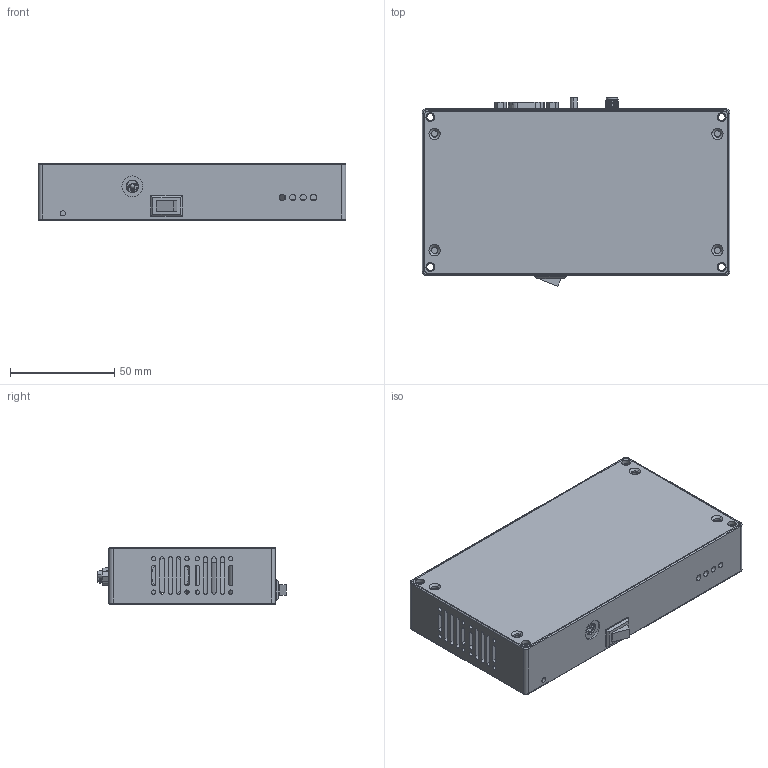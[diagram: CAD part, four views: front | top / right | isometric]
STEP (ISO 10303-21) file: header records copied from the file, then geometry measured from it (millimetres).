
FILE_DESCRIPTION (( 'STEP AP203' ), '1' );
FILE_NAME ('E53.D1S-H8.STEP', '2024-09-26T08:26:16', ( 'User' ), ( 'china' ), 'SwSTEP 2.0', 'SolidWorks 2016', '' );
FILE_SCHEMA (( 'CONFIG_CONTROL_DESIGN' ));
Length unit declared in the file: millimetre
Products named in the file (1): E53.D1S-H8
Bounding box: 148 x 90.64 x 27.5 mm (x, y, z)
Surface area: 69480.1 mm2 (no closed solid volume)
Topology: 0 solids, 36 shells, 480 faces, 1937 edges, 1472 vertices
Faces by surface type: cylinder 282, plane 145, cone 34, torus 8, bspline 8, sphere 3
Entity records: 21345 total; most frequent: CARTESIAN_POINT 4740, DIRECTION 3693, ORIENTED_EDGE 2854, EDGE_CURVE 1926, VERTEX_POINT 1466, AXIS2_PLACEMENT_3D 1392, CIRCLE 919, VECTOR 909
